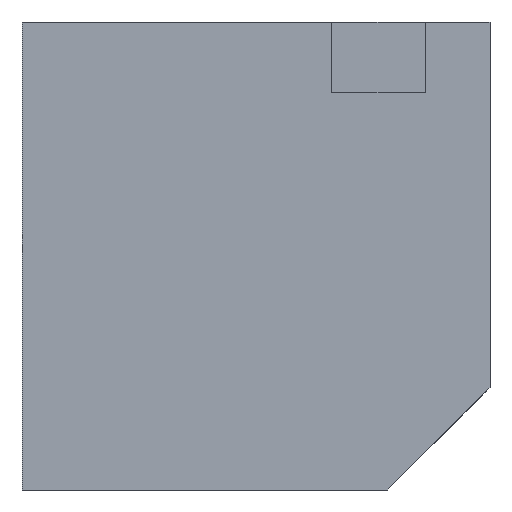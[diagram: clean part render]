
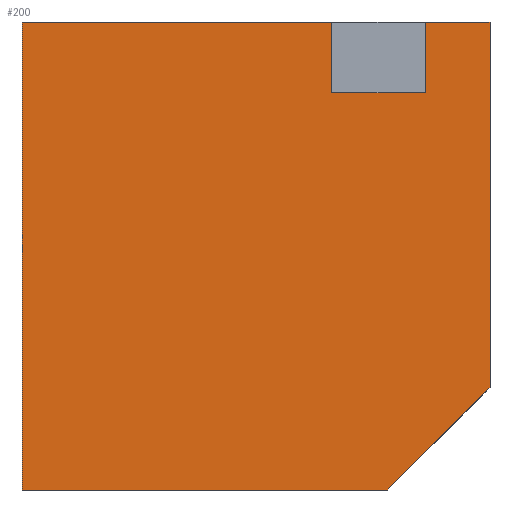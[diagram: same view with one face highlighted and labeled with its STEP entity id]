
A CAD part, left-side view. The second image highlights one B-rep face of the part: STEP entity #200.
In plain terms, the highlighted planar face has unit normal (-1, 0, 0).
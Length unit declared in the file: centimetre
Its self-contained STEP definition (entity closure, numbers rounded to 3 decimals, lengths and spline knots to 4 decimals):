
#15 = EDGE_LOOP ( 'NONE', ( #1181, #1698, #1478, #156, #1898, #400, #1447, #1922, #380 ) ) ;
#22 = LINE ( 'NONE', #2016, #1280 ) ;
#30 = EDGE_CURVE ( 'NONE', #927, #839, #2142, .T. ) ;
#62 = EDGE_CURVE ( 'NONE', #830, #887, #1772, .T. ) ;
#122 = LINE ( 'NONE', #853, #1963 ) ;
#156 = ORIENTED_EDGE ( 'NONE', *, *, #563, .T. ) ;
#169 = PLANE ( 'NONE',  #568 ) ;
#177 = DIRECTION ( 'NONE',  ( 0., 0., 1. ) ) ;
#200 = ADVANCED_FACE ( 'NONE', ( #1050 ), #169, .F. ) ;
#231 = VECTOR ( 'NONE', #2266, 100. ) ;
#306 = CARTESIAN_POINT ( 'NONE',  ( 0., 1000., 1000. ) ) ;
#360 = LINE ( 'NONE', #1445, #411 ) ;
#380 = ORIENTED_EDGE ( 'NONE', *, *, #30, .F. ) ;
#400 = ORIENTED_EDGE ( 'NONE', *, *, #1879, .T. ) ;
#410 = LINE ( 'NONE', #2264, #2160 ) ;
#411 = VECTOR ( 'NONE', #552, 100. ) ;
#463 = EDGE_CURVE ( 'NONE', #839, #653, #122, .T. ) ;
#518 = CARTESIAN_POINT ( 'NONE',  ( 0., 1000., 0. ) ) ;
#525 = CARTESIAN_POINT ( 'NONE',  ( 0., 138.6402, 848.8749 ) ) ;
#546 = VECTOR ( 'NONE', #1616, 100. ) ;
#552 = DIRECTION ( 'NONE',  ( 0., 0., -1. ) ) ;
#563 = EDGE_CURVE ( 'NONE', #830, #1799, #360, .T. ) ;
#568 = AXIS2_PLACEMENT_3D ( 'NONE', #306, #1015, #783 ) ;
#653 = VERTEX_POINT ( 'NONE', #1480 ) ;
#704 = CARTESIAN_POINT ( 'NONE',  ( 0., 1000., 1000. ) ) ;
#711 = DIRECTION ( 'NONE',  ( 0., 0., -1. ) ) ;
#770 = VERTEX_POINT ( 'NONE', #1011 ) ;
#783 = DIRECTION ( 'NONE',  ( 0., 0., -1. ) ) ;
#830 = VERTEX_POINT ( 'NONE', #704 ) ;
#839 = VERTEX_POINT ( 'NONE', #1754 ) ;
#853 = CARTESIAN_POINT ( 'NONE',  ( 0., 1000., 1000. ) ) ;
#887 = VERTEX_POINT ( 'NONE', #2108 ) ;
#899 = CARTESIAN_POINT ( 'NONE',  ( 0., 138.6402, 848.8749 ) ) ;
#927 = VERTEX_POINT ( 'NONE', #1206 ) ;
#943 = CARTESIAN_POINT ( 'NONE',  ( 0., 337.8489, 848.8749 ) ) ;
#1011 = CARTESIAN_POINT ( 'NONE',  ( 0., 0., 219.3742 ) ) ;
#1015 = DIRECTION ( 'NONE',  ( 1., 0., 0. ) ) ;
#1050 = FACE_OUTER_BOUND ( 'NONE', #15, .T. ) ;
#1075 = EDGE_CURVE ( 'NONE', #1701, #927, #1274, .T. ) ;
#1103 = DIRECTION ( 'NONE',  ( 0., -1., 0. ) ) ;
#1181 = ORIENTED_EDGE ( 'NONE', *, *, #1075, .F. ) ;
#1206 = CARTESIAN_POINT ( 'NONE',  ( 0., 138.6402, 848.8749 ) ) ;
#1212 = DIRECTION ( 'NONE',  ( 0., -1., 0. ) ) ;
#1274 = LINE ( 'NONE', #899, #546 ) ;
#1280 = VECTOR ( 'NONE', #1103, 100. ) ;
#1405 = VECTOR ( 'NONE', #711, 100. ) ;
#1445 = CARTESIAN_POINT ( 'NONE',  ( 0., 1000., 1000. ) ) ;
#1447 = ORIENTED_EDGE ( 'NONE', *, *, #2173, .F. ) ;
#1478 = ORIENTED_EDGE ( 'NONE', *, *, #62, .F. ) ;
#1480 = CARTESIAN_POINT ( 'NONE',  ( 0., 0., 1000. ) ) ;
#1540 = VERTEX_POINT ( 'NONE', #1956 ) ;
#1576 = DIRECTION ( 'NONE',  ( 0., -1., 0. ) ) ;
#1592 = CARTESIAN_POINT ( 'NONE',  ( 0., 0., 1000. ) ) ;
#1612 = LINE ( 'NONE', #1592, #1405 ) ;
#1616 = DIRECTION ( 'NONE',  ( 0., -1., 0. ) ) ;
#1684 = EDGE_CURVE ( 'NONE', #1799, #1540, #22, .T. ) ;
#1698 = ORIENTED_EDGE ( 'NONE', *, *, #2122, .F. ) ;
#1701 = VERTEX_POINT ( 'NONE', #943 ) ;
#1715 = CARTESIAN_POINT ( 'NONE',  ( 0., 337.8489, 848.8749 ) ) ;
#1740 = LINE ( 'NONE', #1715, #231 ) ;
#1754 = CARTESIAN_POINT ( 'NONE',  ( 0., 138.6402, 1000. ) ) ;
#1772 = LINE ( 'NONE', #1969, #2337 ) ;
#1799 = VERTEX_POINT ( 'NONE', #518 ) ;
#1879 = EDGE_CURVE ( 'NONE', #1540, #770, #410, .T. ) ;
#1898 = ORIENTED_EDGE ( 'NONE', *, *, #1684, .T. ) ;
#1922 = ORIENTED_EDGE ( 'NONE', *, *, #463, .F. ) ;
#1955 = DIRECTION ( 'NONE',  ( 0., -0.707, 0.707 ) ) ;
#1956 = CARTESIAN_POINT ( 'NONE',  ( 0., 219.3742, 0. ) ) ;
#1963 = VECTOR ( 'NONE', #1576, 100. ) ;
#1969 = CARTESIAN_POINT ( 'NONE',  ( 0., 1000., 1000. ) ) ;
#2016 = CARTESIAN_POINT ( 'NONE',  ( 0., 1000., 0. ) ) ;
#2108 = CARTESIAN_POINT ( 'NONE',  ( 0., 337.8489, 1000. ) ) ;
#2122 = EDGE_CURVE ( 'NONE', #887, #1701, #1740, .T. ) ;
#2142 = LINE ( 'NONE', #525, #2150 ) ;
#2150 = VECTOR ( 'NONE', #177, 100. ) ;
#2160 = VECTOR ( 'NONE', #1955, 100. ) ;
#2173 = EDGE_CURVE ( 'NONE', #653, #770, #1612, .T. ) ;
#2264 = CARTESIAN_POINT ( 'NONE',  ( 0., 0., 219.3742 ) ) ;
#2266 = DIRECTION ( 'NONE',  ( 0., 0., -1. ) ) ;
#2337 = VECTOR ( 'NONE', #1212, 100. ) ;
